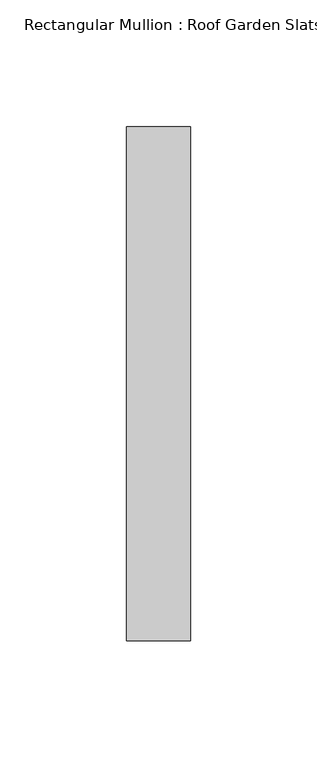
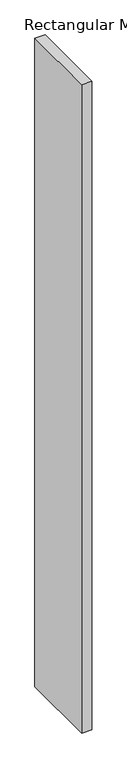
"""IFC4 building model written with IfcOpenShell, lengths in millimetres: member geometry, Rectangular Mullion : Roof Garden Slats."""

from ifc_helpers import new_model, si_unit, frame, origin, place, context, project, spatial, polyline, outline, extrude, source, transform, mapped, element, save


def rectangular_mullion_roof_garden_slats_69855f6a(model_context):
    return source(origin(), model_context, "Body", "SweptSolid", [
        extrude(outline(polyline([(12.7, 139.7), (12.7, -63.5), (-12.7, -63.5), (-12.7, 139.7), (12.7, 139.7)])), frame((0.0, 0.0, -1718.6169835), z_axis=(0.0, 0.0, 1.0), x_axis=(1.0, 0.0, 0.0)), (0.0, 0.0, 1.0), 1718.6169835),
    ])


if __name__ == "__main__":
    model = new_model("IFC4")
    model_context = context("Model", 3, world=origin())
    ifc_project = project(units=[si_unit("LENGTHUNIT", "METRE", prefix="MILLI")], contexts=[model_context])
    site = spatial("IfcSite", under=ifc_project)
    building = spatial("IfcBuilding", under=site)
    placement = place(None, origin())
    rectangular_mullion_roof_garden_slats_shape = rectangular_mullion_roof_garden_slats_69855f6a(model_context)
    element("IfcMember", 1, ObjectType="Rectangular Mullion : Roof Garden Slats", at=placement, inside=building, context=model_context, shape_type="MappedRepresentation", body=[
        mapped(rectangular_mullion_roof_garden_slats_shape, transform((0.0, 0.0, 0.0), x_axis=(1.0, 0.0, 0.0), y_axis=(0.0, 1.0, 0.0), z_axis=(0.0, 0.0, 1.0))),
    ])
    save(model, "model.ifc")
